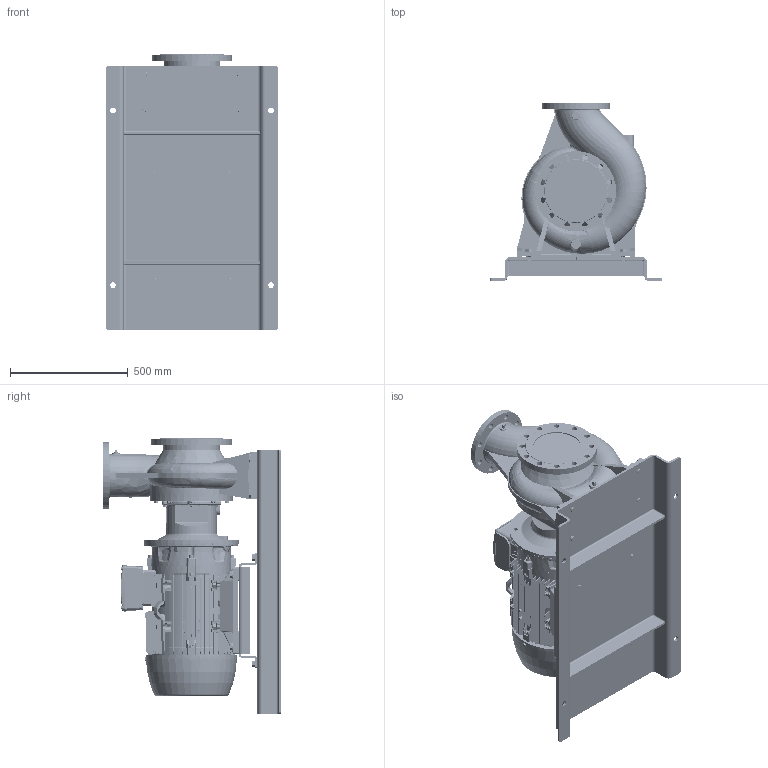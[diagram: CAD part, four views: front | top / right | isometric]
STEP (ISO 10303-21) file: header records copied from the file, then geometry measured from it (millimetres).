
FILE_DESCRIPTION (( 'STEP AP214' ), '1' );
FILE_NAME ('GSD4 150-250_30_(200ML)_W21_BP.STEP', '2026-05-08T01:02:51', ( '' ), ( '' ), 'SwSTEP 2.0', 'SolidWorks 2024', '' );
FILE_SCHEMA (( 'AUTOMOTIVE_DESIGN' ));
Length unit declared in the file: millimetre
Products named in the file (13): Parametric Flat Washer_M16; CGS11-5273; GSD4 150-250_30_(200ML)_W21_BP; N9S4 GSDA-94B F1-1832970-00; Parametric bolt_SFT-A359B; Parametric bolt and washer_SFT-A351B; 150-250-200M_L_ﾃﾞﾌｫﾙﾄ; Parametric bolt_SFT-A403B; Parametric bolt and washer_SFT-A403B; 200M_L ALIE3_W21T_B35; Parametric bolt_SFT-A351B; Parametric Flat Washer_M20; Parametric bolt and washer_SFT-A359B
Assembly tree (22 placements, depth 3):
  GSD4 150-250_30_(200ML)_W21_BP
    150-250-200M_L_ﾃﾞﾌｫﾙﾄ
    N9S4 GSDA-94B F1-1832970-00
    CGS11-5273
    Parametric bolt and washer_SFT-A403B  x4
      Parametric bolt_SFT-A403B
      Parametric Flat Washer_M20
    Parametric bolt and washer_SFT-A351B  x4
      Parametric bolt_SFT-A351B
      Parametric Flat Washer_M16
    Parametric bolt and washer_SFT-A359B  x4
      Parametric bolt_SFT-A359B
      Parametric Flat Washer_M16
    200M_L ALIE3_W21T_B35
Bounding box: 730 x 755 x 1170 mm (x, y, z)
Volume: 125239914.3 mm3; surface area: 7579878.9 mm2
Topology: 60 solids, 70 shells, 7566 faces, 19542 edges, 12582 vertices
Faces by surface type: plane 4351, cylinder 1484, bspline 938, cone 593, torus 200
Entity records: 299875 total; most frequent: CARTESIAN_POINT 139637, ORIENTED_EDGE 35618, DIRECTION 29038, EDGE_CURVE 17809, VERTEX_POINT 11511, LINE 11052, VECTOR 11052, AXIS2_PLACEMENT_3D 8993
